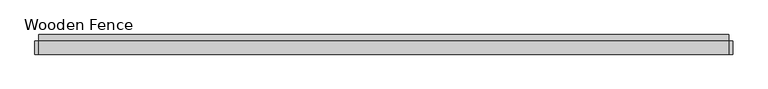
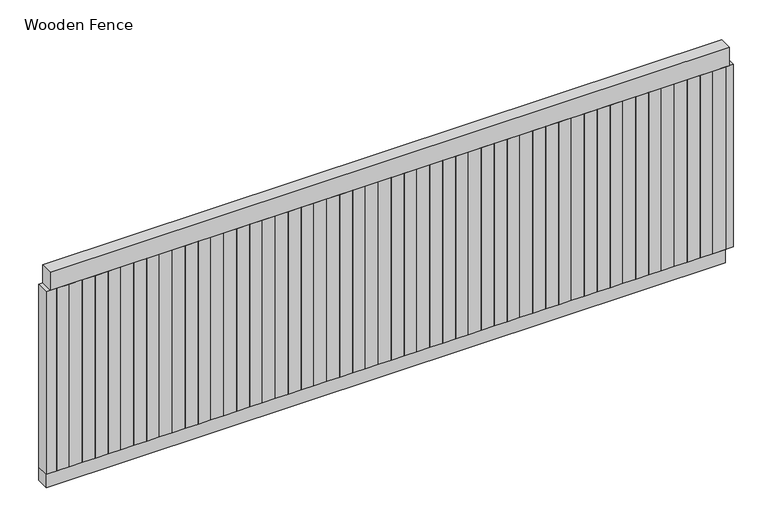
"""IFC4 building model written with IfcOpenShell, lengths in millimetres: railing geometry, Wooden Fence."""

from ifc_helpers import new_model, si_unit, frame, origin, place, context, project, spatial, polyline, outline, extrude, source, transform, mapped, element, save


def wooden_fence_5f6a634e(model_context):
    return source(origin(), model_context, "Body", "SweptSolid", [
        extrude(outline(polyline([(4167.0464708, 3382.9935985), (4167.0464708, 3433.7935985), (6846.7464708, 3433.7935985), (6846.7464708, 3382.9935985), (4167.0464708, 3382.9935985)])), frame((0.0, 0.0, -50.8), z_axis=(0.0, 0.0, 1.0), x_axis=(1.0, 0.0, 0.0)), (0.0, 0.0, 1.0), 76.2),
        extrude(outline(polyline([(4167.0464708, 3357.5935985), (4167.0464708, 3408.3935985), (6846.7464708, 3408.3935985), (6846.7464708, 3357.5935985), (4167.0464708, 3357.5935985)])), frame((0.0, 0.0, 787.4), z_axis=(0.0, 0.0, 1.0), x_axis=(1.0, 0.0, 0.0)), (0.0, 0.0, 1.0), 76.2),
        extrude(outline(polyline([(6783.2464708, 3357.5935985), (6783.2464708, 3408.3935985), (6834.0464708, 3408.3935985), (6834.0464708, 3357.5935985), (6783.2464708, 3357.5935985)])), frame((0.0, 0.0, 25.4), z_axis=(0.0, 0.0, 1.0), x_axis=(1.0, 0.0, 0.0)), (0.0, 0.0, 1.0), 762.0),
        extrude(outline(polyline([(6732.4464708, 3357.5935985), (6732.4464708, 3408.3935985), (6783.2464708, 3408.3935985), (6783.2464708, 3357.5935985), (6732.4464708, 3357.5935985)])), frame((0.0, 0.0, 25.4), z_axis=(0.0, 0.0, 1.0), x_axis=(1.0, 0.0, 0.0)), (0.0, 0.0, 1.0), 762.0),
        extrude(outline(polyline([(6681.6464708, 3357.5935985), (6681.6464708, 3408.3935985), (6732.4464708, 3408.3935985), (6732.4464708, 3357.5935985), (6681.6464708, 3357.5935985)])), frame((0.0, 0.0, 25.4), z_axis=(0.0, 0.0, 1.0), x_axis=(1.0, 0.0, 0.0)), (0.0, 0.0, 1.0), 762.0),
        extrude(outline(polyline([(6630.8464708, 3357.5935985), (6630.8464708, 3408.3935985), (6681.6464708, 3408.3935985), (6681.6464708, 3357.5935985), (6630.8464708, 3357.5935985)])), frame((0.0, 0.0, 25.4), z_axis=(0.0, 0.0, 1.0), x_axis=(1.0, 0.0, 0.0)), (0.0, 0.0, 1.0), 762.0),
        extrude(outline(polyline([(6580.0464708, 3357.5935985), (6580.0464708, 3408.3935985), (6630.8464708, 3408.3935985), (6630.8464708, 3357.5935985), (6580.0464708, 3357.5935985)])), frame((0.0, 0.0, 25.4), z_axis=(0.0, 0.0, 1.0), x_axis=(1.0, 0.0, 0.0)), (0.0, 0.0, 1.0), 762.0),
        extrude(outline(polyline([(6529.2464708, 3357.5935985), (6529.2464708, 3408.3935985), (6580.0464708, 3408.3935985), (6580.0464708, 3357.5935985), (6529.2464708, 3357.5935985)])), frame((0.0, 0.0, 25.4), z_axis=(0.0, 0.0, 1.0), x_axis=(1.0, 0.0, 0.0)), (0.0, 0.0, 1.0), 762.0),
        extrude(outline(polyline([(6478.4464708, 3357.5935985), (6478.4464708, 3408.3935985), (6529.2464708, 3408.3935985), (6529.2464708, 3357.5935985), (6478.4464708, 3357.5935985)])), frame((0.0, 0.0, 25.4), z_axis=(0.0, 0.0, 1.0), x_axis=(1.0, 0.0, 0.0)), (0.0, 0.0, 1.0), 762.0),
        extrude(outline(polyline([(6427.6464708, 3357.5935985), (6427.6464708, 3408.3935985), (6478.4464708, 3408.3935985), (6478.4464708, 3357.5935985), (6427.6464708, 3357.5935985)])), frame((0.0, 0.0, 25.4), z_axis=(0.0, 0.0, 1.0), x_axis=(1.0, 0.0, 0.0)), (0.0, 0.0, 1.0), 762.0),
        extrude(outline(polyline([(6376.8464708, 3357.5935985), (6376.8464708, 3408.3935985), (6427.6464708, 3408.3935985), (6427.6464708, 3357.5935985), (6376.8464708, 3357.5935985)])), frame((0.0, 0.0, 25.4), z_axis=(0.0, 0.0, 1.0), x_axis=(1.0, 0.0, 0.0)), (0.0, 0.0, 1.0), 762.0),
        extrude(outline(polyline([(6326.0464708, 3357.5935985), (6326.0464708, 3408.3935985), (6376.8464708, 3408.3935985), (6376.8464708, 3357.5935985), (6326.0464708, 3357.5935985)])), frame((0.0, 0.0, 25.4), z_axis=(0.0, 0.0, 1.0), x_axis=(1.0, 0.0, 0.0)), (0.0, 0.0, 1.0), 762.0),
        extrude(outline(polyline([(6275.2464708, 3357.5935985), (6275.2464708, 3408.3935985), (6326.0464708, 3408.3935985), (6326.0464708, 3357.5935985), (6275.2464708, 3357.5935985)])), frame((0.0, 0.0, 25.4), z_axis=(0.0, 0.0, 1.0), x_axis=(1.0, 0.0, 0.0)), (0.0, 0.0, 1.0), 762.0),
        extrude(outline(polyline([(6224.4464708, 3357.5935985), (6224.4464708, 3408.3935985), (6275.2464708, 3408.3935985), (6275.2464708, 3357.5935985), (6224.4464708, 3357.5935985)])), frame((0.0, 0.0, 25.4), z_axis=(0.0, 0.0, 1.0), x_axis=(1.0, 0.0, 0.0)), (0.0, 0.0, 1.0), 762.0),
        extrude(outline(polyline([(6173.6464708, 3357.5935985), (6173.6464708, 3408.3935985), (6224.4464708, 3408.3935985), (6224.4464708, 3357.5935985), (6173.6464708, 3357.5935985)])), frame((0.0, 0.0, 25.4), z_axis=(0.0, 0.0, 1.0), x_axis=(1.0, 0.0, 0.0)), (0.0, 0.0, 1.0), 762.0),
        extrude(outline(polyline([(6122.8464708, 3357.5935985), (6122.8464708, 3408.3935985), (6173.6464708, 3408.3935985), (6173.6464708, 3357.5935985), (6122.8464708, 3357.5935985)])), frame((0.0, 0.0, 25.4), z_axis=(0.0, 0.0, 1.0), x_axis=(1.0, 0.0, 0.0)), (0.0, 0.0, 1.0), 762.0),
        extrude(outline(polyline([(6072.0464708, 3357.5935985), (6072.0464708, 3408.3935985), (6122.8464708, 3408.3935985), (6122.8464708, 3357.5935985), (6072.0464708, 3357.5935985)])), frame((0.0, 0.0, 25.4), z_axis=(0.0, 0.0, 1.0), x_axis=(1.0, 0.0, 0.0)), (0.0, 0.0, 1.0), 762.0),
        extrude(outline(polyline([(6021.2464708, 3357.5935985), (6021.2464708, 3408.3935985), (6072.0464708, 3408.3935985), (6072.0464708, 3357.5935985), (6021.2464708, 3357.5935985)])), frame((0.0, 0.0, 25.4), z_axis=(0.0, 0.0, 1.0), x_axis=(1.0, 0.0, 0.0)), (0.0, 0.0, 1.0), 762.0),
        extrude(outline(polyline([(5970.4464708, 3357.5935985), (5970.4464708, 3408.3935985), (6021.2464708, 3408.3935985), (6021.2464708, 3357.5935985), (5970.4464708, 3357.5935985)])), frame((0.0, 0.0, 25.4), z_axis=(0.0, 0.0, 1.0), x_axis=(1.0, 0.0, 0.0)), (0.0, 0.0, 1.0), 762.0),
        extrude(outline(polyline([(5919.6464708, 3357.5935985), (5919.6464708, 3408.3935985), (5970.4464708, 3408.3935985), (5970.4464708, 3357.5935985), (5919.6464708, 3357.5935985)])), frame((0.0, 0.0, 25.4), z_axis=(0.0, 0.0, 1.0), x_axis=(1.0, 0.0, 0.0)), (0.0, 0.0, 1.0), 762.0),
        extrude(outline(polyline([(5868.8464708, 3357.5935985), (5868.8464708, 3408.3935985), (5919.6464708, 3408.3935985), (5919.6464708, 3357.5935985), (5868.8464708, 3357.5935985)])), frame((0.0, 0.0, 25.4), z_axis=(0.0, 0.0, 1.0), x_axis=(1.0, 0.0, 0.0)), (0.0, 0.0, 1.0), 762.0),
        extrude(outline(polyline([(5818.0464708, 3357.5935985), (5818.0464708, 3408.3935985), (5868.8464708, 3408.3935985), (5868.8464708, 3357.5935985), (5818.0464708, 3357.5935985)])), frame((0.0, 0.0, 25.4), z_axis=(0.0, 0.0, 1.0), x_axis=(1.0, 0.0, 0.0)), (0.0, 0.0, 1.0), 762.0),
        extrude(outline(polyline([(5767.2464708, 3357.5935985), (5767.2464708, 3408.3935985), (5818.0464708, 3408.3935985), (5818.0464708, 3357.5935985), (5767.2464708, 3357.5935985)])), frame((0.0, 0.0, 25.4), z_axis=(0.0, 0.0, 1.0), x_axis=(1.0, 0.0, 0.0)), (0.0, 0.0, 1.0), 762.0),
        extrude(outline(polyline([(5716.4464708, 3357.5935985), (5716.4464708, 3408.3935985), (5767.2464708, 3408.3935985), (5767.2464708, 3357.5935985), (5716.4464708, 3357.5935985)])), frame((0.0, 0.0, 25.4), z_axis=(0.0, 0.0, 1.0), x_axis=(1.0, 0.0, 0.0)), (0.0, 0.0, 1.0), 762.0),
        extrude(outline(polyline([(5665.6464708, 3357.5935985), (5665.6464708, 3408.3935985), (5716.4464708, 3408.3935985), (5716.4464708, 3357.5935985), (5665.6464708, 3357.5935985)])), frame((0.0, 0.0, 25.4), z_axis=(0.0, 0.0, 1.0), x_axis=(1.0, 0.0, 0.0)), (0.0, 0.0, 1.0), 762.0),
        extrude(outline(polyline([(5614.8464708, 3357.5935985), (5614.8464708, 3408.3935985), (5665.6464708, 3408.3935985), (5665.6464708, 3357.5935985), (5614.8464708, 3357.5935985)])), frame((0.0, 0.0, 25.4), z_axis=(0.0, 0.0, 1.0), x_axis=(1.0, 0.0, 0.0)), (0.0, 0.0, 1.0), 762.0),
        extrude(outline(polyline([(5564.0464708, 3357.5935985), (5564.0464708, 3408.3935985), (5614.8464708, 3408.3935985), (5614.8464708, 3357.5935985), (5564.0464708, 3357.5935985)])), frame((0.0, 0.0, 25.4), z_axis=(0.0, 0.0, 1.0), x_axis=(1.0, 0.0, 0.0)), (0.0, 0.0, 1.0), 762.0),
        extrude(outline(polyline([(5513.2464708, 3357.5935985), (5513.2464708, 3408.3935985), (5564.0464708, 3408.3935985), (5564.0464708, 3357.5935985), (5513.2464708, 3357.5935985)])), frame((0.0, 0.0, 25.4), z_axis=(0.0, 0.0, 1.0), x_axis=(1.0, 0.0, 0.0)), (0.0, 0.0, 1.0), 762.0),
        extrude(outline(polyline([(5462.4464708, 3357.5935985), (5462.4464708, 3408.3935985), (5513.2464708, 3408.3935985), (5513.2464708, 3357.5935985), (5462.4464708, 3357.5935985)])), frame((0.0, 0.0, 25.4), z_axis=(0.0, 0.0, 1.0), x_axis=(1.0, 0.0, 0.0)), (0.0, 0.0, 1.0), 762.0),
        extrude(outline(polyline([(5411.6464708, 3357.5935985), (5411.6464708, 3408.3935985), (5462.4464708, 3408.3935985), (5462.4464708, 3357.5935985), (5411.6464708, 3357.5935985)])), frame((0.0, 0.0, 25.4), z_axis=(0.0, 0.0, 1.0), x_axis=(1.0, 0.0, 0.0)), (0.0, 0.0, 1.0), 762.0),
        extrude(outline(polyline([(5360.8464708, 3357.5935985), (5360.8464708, 3408.3935985), (5411.6464708, 3408.3935985), (5411.6464708, 3357.5935985), (5360.8464708, 3357.5935985)])), frame((0.0, 0.0, 25.4), z_axis=(0.0, 0.0, 1.0), x_axis=(1.0, 0.0, 0.0)), (0.0, 0.0, 1.0), 762.0),
        extrude(outline(polyline([(5310.0464708, 3357.5935985), (5310.0464708, 3408.3935985), (5360.8464708, 3408.3935985), (5360.8464708, 3357.5935985), (5310.0464708, 3357.5935985)])), frame((0.0, 0.0, 25.4), z_axis=(0.0, 0.0, 1.0), x_axis=(1.0, 0.0, 0.0)), (0.0, 0.0, 1.0), 762.0),
        extrude(outline(polyline([(5259.2464708, 3357.5935985), (5259.2464708, 3408.3935985), (5310.0464708, 3408.3935985), (5310.0464708, 3357.5935985), (5259.2464708, 3357.5935985)])), frame((0.0, 0.0, 25.4), z_axis=(0.0, 0.0, 1.0), x_axis=(1.0, 0.0, 0.0)), (0.0, 0.0, 1.0), 762.0),
        extrude(outline(polyline([(5208.4464708, 3357.5935985), (5208.4464708, 3408.3935985), (5259.2464708, 3408.3935985), (5259.2464708, 3357.5935985), (5208.4464708, 3357.5935985)])), frame((0.0, 0.0, 25.4), z_axis=(0.0, 0.0, 1.0), x_axis=(1.0, 0.0, 0.0)), (0.0, 0.0, 1.0), 762.0),
        extrude(outline(polyline([(5157.6464708, 3357.5935985), (5157.6464708, 3408.3935985), (5208.4464708, 3408.3935985), (5208.4464708, 3357.5935985), (5157.6464708, 3357.5935985)])), frame((0.0, 0.0, 25.4), z_axis=(0.0, 0.0, 1.0), x_axis=(1.0, 0.0, 0.0)), (0.0, 0.0, 1.0), 762.0),
        extrude(outline(polyline([(5106.8464708, 3357.5935985), (5106.8464708, 3408.3935985), (5157.6464708, 3408.3935985), (5157.6464708, 3357.5935985), (5106.8464708, 3357.5935985)])), frame((0.0, 0.0, 25.4), z_axis=(0.0, 0.0, 1.0), x_axis=(1.0, 0.0, 0.0)), (0.0, 0.0, 1.0), 762.0),
        extrude(outline(polyline([(5056.0464708, 3357.5935985), (5056.0464708, 3408.3935985), (5106.8464708, 3408.3935985), (5106.8464708, 3357.5935985), (5056.0464708, 3357.5935985)])), frame((0.0, 0.0, 25.4), z_axis=(0.0, 0.0, 1.0), x_axis=(1.0, 0.0, 0.0)), (0.0, 0.0, 1.0), 762.0),
        extrude(outline(polyline([(5005.2464708, 3357.5935985), (5005.2464708, 3408.3935985), (5056.0464708, 3408.3935985), (5056.0464708, 3357.5935985), (5005.2464708, 3357.5935985)])), frame((0.0, 0.0, 25.4), z_axis=(0.0, 0.0, 1.0), x_axis=(1.0, 0.0, 0.0)), (0.0, 0.0, 1.0), 762.0),
        extrude(outline(polyline([(4954.4464708, 3357.5935985), (4954.4464708, 3408.3935985), (5005.2464708, 3408.3935985), (5005.2464708, 3357.5935985), (4954.4464708, 3357.5935985)])), frame((0.0, 0.0, 25.4), z_axis=(0.0, 0.0, 1.0), x_axis=(1.0, 0.0, 0.0)), (0.0, 0.0, 1.0), 762.0),
        extrude(outline(polyline([(4903.6464708, 3357.5935985), (4903.6464708, 3408.3935985), (4954.4464708, 3408.3935985), (4954.4464708, 3357.5935985), (4903.6464708, 3357.5935985)])), frame((0.0, 0.0, 25.4), z_axis=(0.0, 0.0, 1.0), x_axis=(1.0, 0.0, 0.0)), (0.0, 0.0, 1.0), 762.0),
        extrude(outline(polyline([(4852.8464708, 3357.5935985), (4852.8464708, 3408.3935985), (4903.6464708, 3408.3935985), (4903.6464708, 3357.5935985), (4852.8464708, 3357.5935985)])), frame((0.0, 0.0, 25.4), z_axis=(0.0, 0.0, 1.0), x_axis=(1.0, 0.0, 0.0)), (0.0, 0.0, 1.0), 762.0),
        extrude(outline(polyline([(4802.0464708, 3357.5935985), (4802.0464708, 3408.3935985), (4852.8464708, 3408.3935985), (4852.8464708, 3357.5935985), (4802.0464708, 3357.5935985)])), frame((0.0, 0.0, 25.4), z_axis=(0.0, 0.0, 1.0), x_axis=(1.0, 0.0, 0.0)), (0.0, 0.0, 1.0), 762.0),
        extrude(outline(polyline([(4751.2464708, 3357.5935985), (4751.2464708, 3408.3935985), (4802.0464708, 3408.3935985), (4802.0464708, 3357.5935985), (4751.2464708, 3357.5935985)])), frame((0.0, 0.0, 25.4), z_axis=(0.0, 0.0, 1.0), x_axis=(1.0, 0.0, 0.0)), (0.0, 0.0, 1.0), 762.0),
        extrude(outline(polyline([(4700.4464708, 3357.5935985), (4700.4464708, 3408.3935985), (4751.2464708, 3408.3935985), (4751.2464708, 3357.5935985), (4700.4464708, 3357.5935985)])), frame((0.0, 0.0, 25.4), z_axis=(0.0, 0.0, 1.0), x_axis=(1.0, 0.0, 0.0)), (0.0, 0.0, 1.0), 762.0),
        extrude(outline(polyline([(4649.6464708, 3357.5935985), (4649.6464708, 3408.3935985), (4700.4464708, 3408.3935985), (4700.4464708, 3357.5935985), (4649.6464708, 3357.5935985)])), frame((0.0, 0.0, 25.4), z_axis=(0.0, 0.0, 1.0), x_axis=(1.0, 0.0, 0.0)), (0.0, 0.0, 1.0), 762.0),
        extrude(outline(polyline([(4598.8464708, 3357.5935985), (4598.8464708, 3408.3935985), (4649.6464708, 3408.3935985), (4649.6464708, 3357.5935985), (4598.8464708, 3357.5935985)])), frame((0.0, 0.0, 25.4), z_axis=(0.0, 0.0, 1.0), x_axis=(1.0, 0.0, 0.0)), (0.0, 0.0, 1.0), 762.0),
        extrude(outline(polyline([(4548.0464708, 3357.5935985), (4548.0464708, 3408.3935985), (4598.8464708, 3408.3935985), (4598.8464708, 3357.5935985), (4548.0464708, 3357.5935985)])), frame((0.0, 0.0, 25.4), z_axis=(0.0, 0.0, 1.0), x_axis=(1.0, 0.0, 0.0)), (0.0, 0.0, 1.0), 762.0),
        extrude(outline(polyline([(4497.2464708, 3357.5935985), (4497.2464708, 3408.3935985), (4548.0464708, 3408.3935985), (4548.0464708, 3357.5935985), (4497.2464708, 3357.5935985)])), frame((0.0, 0.0, 25.4), z_axis=(0.0, 0.0, 1.0), x_axis=(1.0, 0.0, 0.0)), (0.0, 0.0, 1.0), 762.0),
        extrude(outline(polyline([(4446.4464708, 3357.5935985), (4446.4464708, 3408.3935985), (4497.2464708, 3408.3935985), (4497.2464708, 3357.5935985), (4446.4464708, 3357.5935985)])), frame((0.0, 0.0, 25.4), z_axis=(0.0, 0.0, 1.0), x_axis=(1.0, 0.0, 0.0)), (0.0, 0.0, 1.0), 762.0),
        extrude(outline(polyline([(4395.6464708, 3357.5935985), (4395.6464708, 3408.3935985), (4446.4464708, 3408.3935985), (4446.4464708, 3357.5935985), (4395.6464708, 3357.5935985)])), frame((0.0, 0.0, 25.4), z_axis=(0.0, 0.0, 1.0), x_axis=(1.0, 0.0, 0.0)), (0.0, 0.0, 1.0), 762.0),
        extrude(outline(polyline([(4344.8464708, 3357.5935985), (4344.8464708, 3408.3935985), (4395.6464708, 3408.3935985), (4395.6464708, 3357.5935985), (4344.8464708, 3357.5935985)])), frame((0.0, 0.0, 25.4), z_axis=(0.0, 0.0, 1.0), x_axis=(1.0, 0.0, 0.0)), (0.0, 0.0, 1.0), 762.0),
        extrude(outline(polyline([(4294.0464708, 3357.5935985), (4294.0464708, 3408.3935985), (4344.8464708, 3408.3935985), (4344.8464708, 3357.5935985), (4294.0464708, 3357.5935985)])), frame((0.0, 0.0, 25.4), z_axis=(0.0, 0.0, 1.0), x_axis=(1.0, 0.0, 0.0)), (0.0, 0.0, 1.0), 762.0),
        extrude(outline(polyline([(4243.2464708, 3357.5935985), (4243.2464708, 3408.3935985), (4294.0464708, 3408.3935985), (4294.0464708, 3357.5935985), (4243.2464708, 3357.5935985)])), frame((0.0, 0.0, 25.4), z_axis=(0.0, 0.0, 1.0), x_axis=(1.0, 0.0, 0.0)), (0.0, 0.0, 1.0), 762.0),
        extrude(outline(polyline([(4192.4464708, 3357.5935985), (4192.4464708, 3408.3935985), (4243.2464708, 3408.3935985), (4243.2464708, 3357.5935985), (4192.4464708, 3357.5935985)])), frame((0.0, 0.0, 25.4), z_axis=(0.0, 0.0, 1.0), x_axis=(1.0, 0.0, 0.0)), (0.0, 0.0, 1.0), 762.0),
        extrude(outline(polyline([(6811.8214708, 3357.5935985), (6811.8214708, 3408.3935985), (6862.6214708, 3408.3935985), (6862.6214708, 3357.5935985), (6811.8214708, 3357.5935985)])), frame((0.0, 0.0, 25.4), z_axis=(0.0, 0.0, 1.0), x_axis=(1.0, 0.0, 0.0)), (0.0, 0.0, 1.0), 762.0),
        extrude(outline(polyline([(4151.1714708, 3357.5935985), (4151.1714708, 3408.3935985), (4201.9714708, 3408.3935985), (4201.9714708, 3357.5935985), (4151.1714708, 3357.5935985)])), frame((0.0, 0.0, 25.4), z_axis=(0.0, 0.0, 1.0), x_axis=(1.0, 0.0, 0.0)), (0.0, 0.0, 1.0), 762.0),
    ])


if __name__ == "__main__":
    model = new_model("IFC4")
    model_context = context("Model", 3, world=origin())
    ifc_project = project(units=[si_unit("LENGTHUNIT", "METRE", prefix="MILLI")], contexts=[model_context])
    site = spatial("IfcSite", under=ifc_project)
    building = spatial("IfcBuilding", under=site)
    placement = place(None, origin())
    wooden_fence_shape = wooden_fence_5f6a634e(model_context)
    element("IfcRailing", 1, ObjectType="Wooden Fence", at=placement, inside=building, context=model_context, shape_type="MappedRepresentation", body=[
        mapped(wooden_fence_shape, transform((0.0, 0.0, 0.0), x_axis=(1.0, 0.0, 0.0), y_axis=(0.0, 1.0, 0.0), z_axis=(0.0, 0.0, 1.0))),
    ])
    save(model, "model.ifc")
